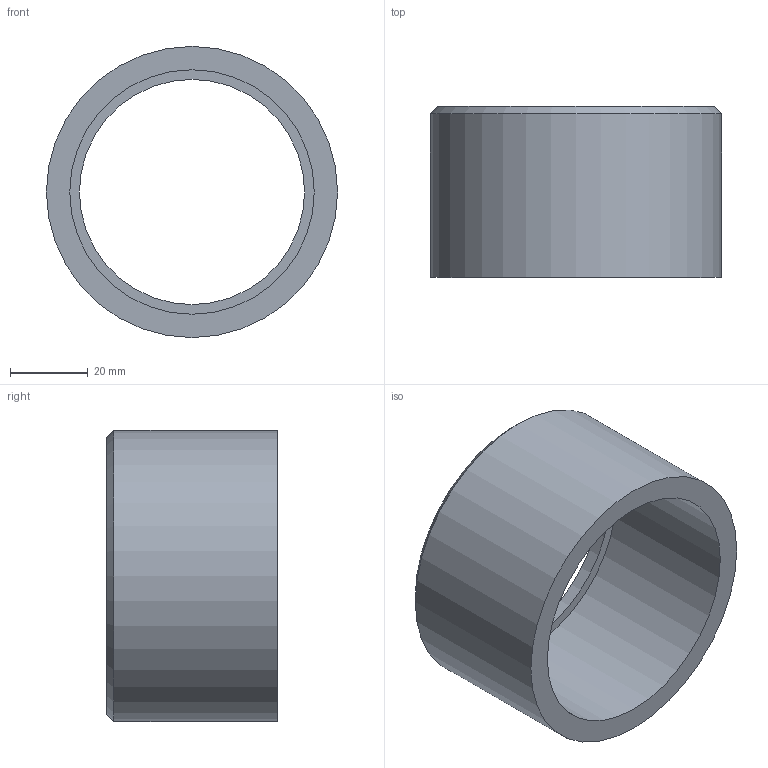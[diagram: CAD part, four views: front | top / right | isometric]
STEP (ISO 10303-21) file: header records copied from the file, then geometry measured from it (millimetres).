
FILE_DESCRIPTION(/* description */ ('PVC riduzione corta incollaggio metrica'),/* implementation_level */ '2;1');
FILE_NAME(/* name */ 'C:\Users\POLYPIPE\Desktop\DATASET INVENTOR\LIBRERIA EFFAST\RACCORDI 3DxWEB\RDR\3D_RDRRCD\3D_RDRRCD075G.stp',/* time_stamp */ '2018-01-19T15:32:07+01:00',/* author */ ('POLYPIPE'),/* organization */ ('Polypipe Italia s.r.l.'),/* preprocessor_version */ 'ST-DEVELOPER v16.1',/* originating_system */ 'Autodesk Inventor 2016',/* authorisation */ '');
FILE_SCHEMA (('CONFIG_CONTROL_DESIGN'));
Length unit declared in the file: millimetre
Products named in the file (1): 3D_RDRRCD
Bounding box: 75 x 44 x 75 mm (x, y, z)
Volume: 58232.5 mm3; surface area: 21902.8 mm2
Topology: 1 solids, 1 shells, 8 faces, 13 edges, 8 vertices
Faces by surface type: plane 3, cylinder 3, cone 2
Full cylindrical faces by diameter (mm): 58 x1, 63 x1, 75 x1
Entity records: 192 total; most frequent: DIRECTION 34, CARTESIAN_POINT 25, AXIS2_PLACEMENT_3D 17, EDGE_LOOP 16, ORIENTED_EDGE 16, FACE_BOUND 8, FACE_OUTER_BOUND 8, CIRCLE 8
